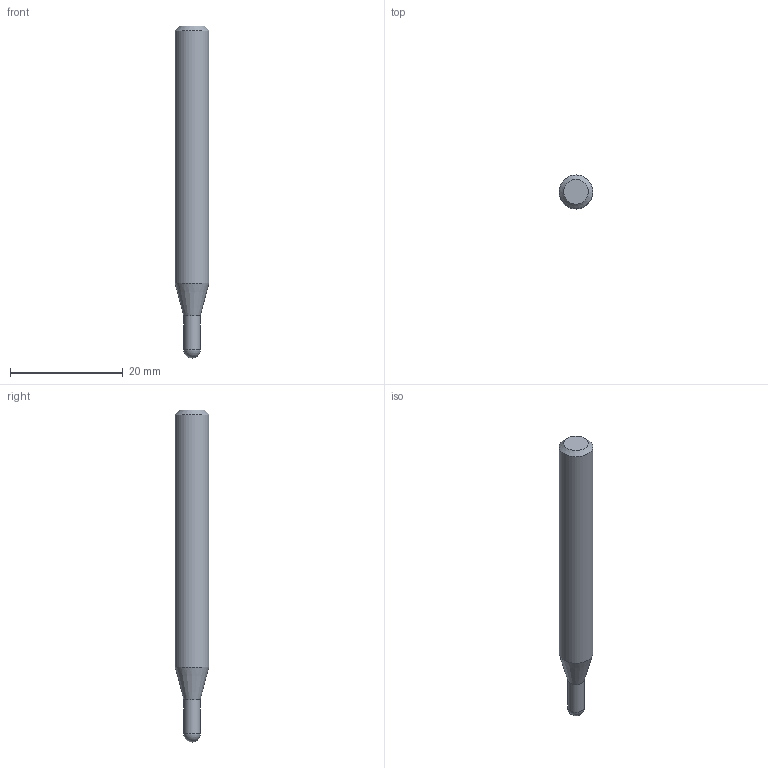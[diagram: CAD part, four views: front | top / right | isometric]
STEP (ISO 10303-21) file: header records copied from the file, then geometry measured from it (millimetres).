
FILE_DESCRIPTION((''),'2;1');
FILE_NAME('C:\Users\nsx150\AppData\Local\Temp\Mastercam 2021\YL1MSSW1B8\TEMP.step','2022-11-24T15:43:14',(''),(''),'STEP Write','Mastercam 2021 ... CNC Software, Inc.','');
FILE_SCHEMA(('AUTOMOTIVE_DESIGN'));
Length unit declared in the file: millimetre
Products named in the file (1): None
Bounding box: 6 x 6 x 59 mm (x, y, z)
Volume: 1428.7 mm3; surface area: 1047.3 mm2
Topology: 2 solids, 2 shells, 8 faces, 12 edges, 7 vertices
Faces by surface type: plane 3, cone 2, cylinder 2, sphere 1
Full cylindrical faces by diameter (mm): 2.92 x1, 6 x1
Entity records: 190 total; most frequent: DIRECTION 32, CARTESIAN_POINT 22, AXIS2_PLACEMENT_3D 16, ORIENTED_EDGE 12, EDGE_LOOP 12, STYLED_ITEM 11, ADVANCED_FACE 8, VERTEX_POINT 6
